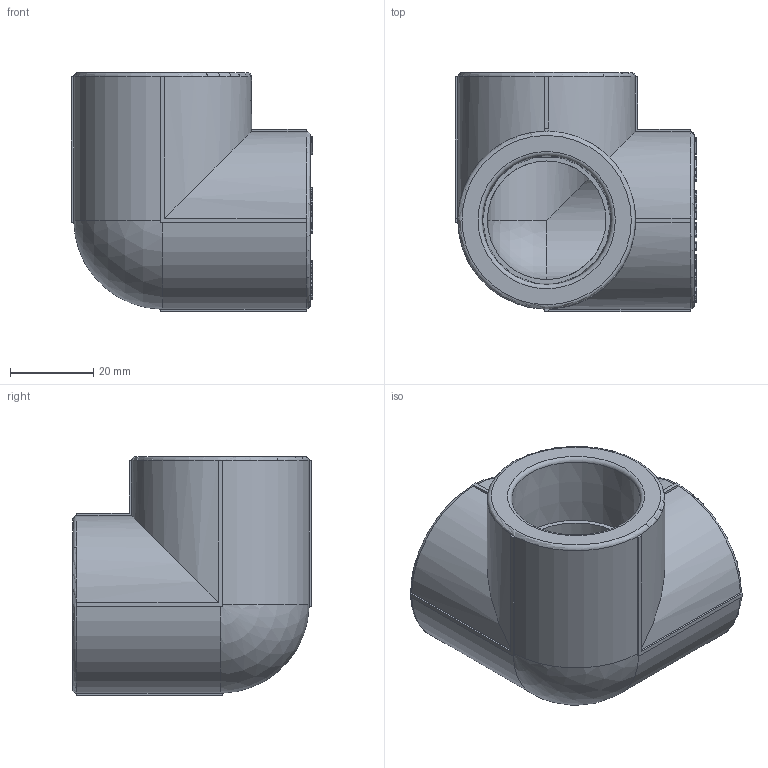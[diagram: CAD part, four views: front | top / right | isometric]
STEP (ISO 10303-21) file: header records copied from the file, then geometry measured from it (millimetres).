
FILE_DESCRIPTION(('STEP AP203'), '1');
FILE_NAME('ÂÐ.752248.003 - VTp.738.0.032', '', ('UNSPECIFIED'), ('UNSPECIFIED'), 'C3D Converter', 'C3D Toolkit', '');
FILE_SCHEMA(('CONFIG_CONTROL_DESIGN'));
Length unit declared in the file: millimetre
Products named in the file (1): ВР.752248.003
Bounding box: 57.9 x 57.4 x 57.4 mm (x, y, z)
Volume: 58906 mm3; surface area: 21005.6 mm2
Topology: 1 solids, 1 shells, 1069 faces, 3003 edges, 1991 vertices
Faces by surface type: extrusion 623, plane 395, cylinder 40, torus 6, cone 3, sphere 2
Full cylindrical faces by diameter (mm): 6 x1, 28.5 x3
Entity records: 39193 total; most frequent: CARTESIAN_POINT 14936, ORIENTED_EDGE 5978, DIRECTION 3011, EDGE_CURVE 2989, VECTOR 2011, VERTEX_POINT 1991, B_SPLINE_CURVE_WITH_KNOTS 1870, LINE 1388
